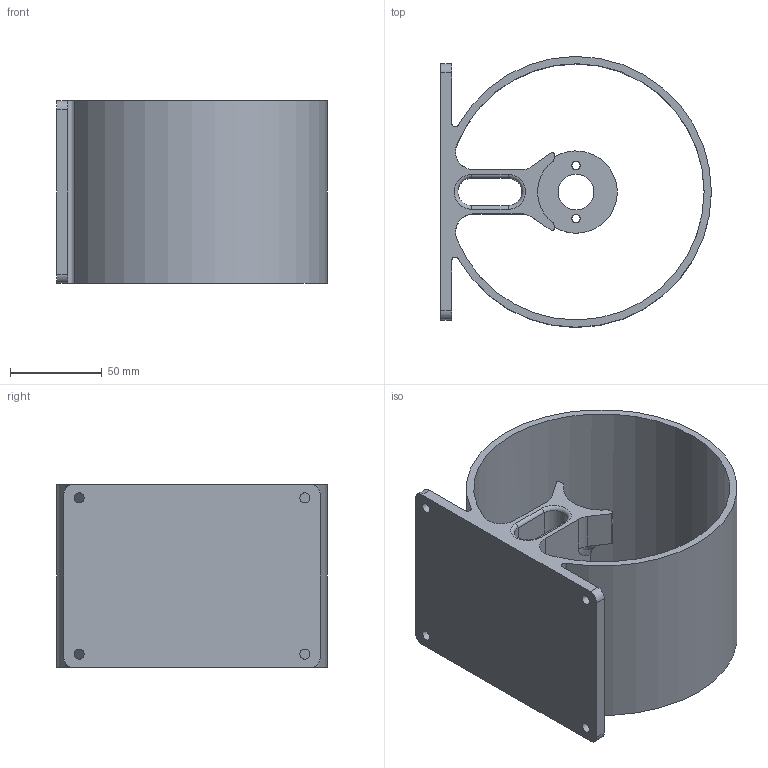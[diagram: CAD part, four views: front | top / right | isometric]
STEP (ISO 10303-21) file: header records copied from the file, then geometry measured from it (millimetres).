
FILE_DESCRIPTION(/* description */ (''),/* implementation_level */ '2;1');
FILE_NAME(/* name */ 'tubo_140.stp',/* time_stamp */ '2025-01-19T17:45:04+01:00',/* author */ ('R5800u'),/* organization */ (''),/* preprocessor_version */ 'ST-DEVELOPER v20',/* originating_system */ 'Autodesk Inventor 2025',/* authorisation */ '');
FILE_SCHEMA (('AUTOMOTIVE_DESIGN { 1 0 10303 214 3 1 1 }'));
Length unit declared in the file: millimetre
Products named in the file (1): tubo_140
Bounding box: 148 x 148 x 100 mm (x, y, z)
Volume: 313802.2 mm3; surface area: 129775.4 mm2
Topology: 1 solids, 1 shells, 87 faces, 228 edges, 138 vertices
Faces by surface type: cylinder 40, plane 20, bspline 15, torus 12
Full cylindrical faces by diameter (mm): 4.5 x2, 5.5 x4, 8 x2, 19.5 x1, 140 x1
Entity records: 3465 total; most frequent: CARTESIAN_POINT 1311, ORIENTED_EDGE 444, DIRECTION 436, EDGE_CURVE 222, AXIS2_PLACEMENT_3D 177, VERTEX_POINT 138, EDGE_LOOP 106, CIRCLE 104
